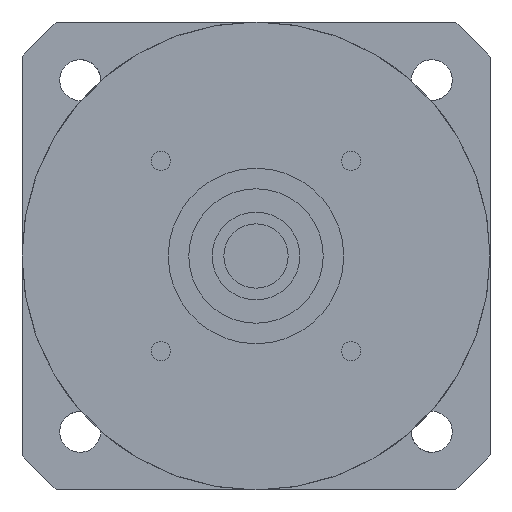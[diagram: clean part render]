
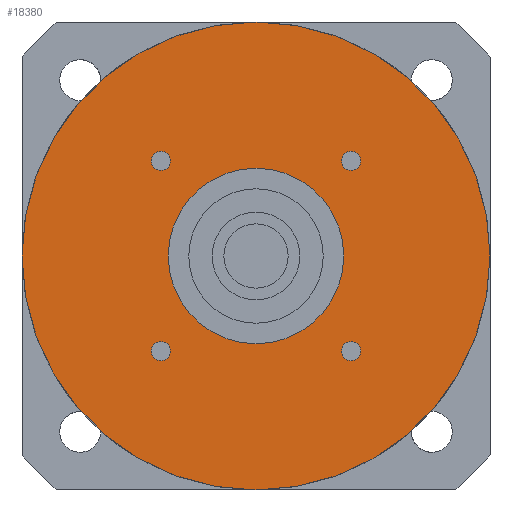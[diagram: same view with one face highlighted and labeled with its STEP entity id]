
A CAD part, left-side view. The second image highlights one B-rep face of the part: STEP entity #18380.
In plain terms, the highlighted planar face has unit normal (-1, 0, 0) as drawn and (0, 0, -1) by its records, which use the part's own axes.
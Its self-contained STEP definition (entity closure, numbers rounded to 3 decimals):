
#13680=CARTESIAN_POINT('',(-17.913,-16.263,-42.));
#13690=VERTEX_POINT('',#13680);
#13740=CARTESIAN_POINT('',(-16.263,-16.263,-42.));
#13750=DIRECTION('',(0.,0.,-1.));
#13760=DIRECTION('',(1.,0.,0.));
#13770=AXIS2_PLACEMENT_3D('',#13740,#13750,#13760);
#13780=CIRCLE('',#13770,1.65);
#13790=CARTESIAN_POINT('',(-14.613,-16.263,-42.));
#13800=VERTEX_POINT('',#13790);
#13810=EDGE_CURVE('',#13800,#13690,#13780,.T.);
#17400=CARTESIAN_POINT('',(-40.,0.,-42.));
#17410=VERTEX_POINT('',#17400);
#17490=CARTESIAN_POINT('',(40.,0.,-42.));
#17500=VERTEX_POINT('',#17490);
#17530=CARTESIAN_POINT('',(0.,0.,
-42.));
#17540=DIRECTION('',(0.,0.,1.));
#17550=DIRECTION('',(1.,0.,0.));
#17560=AXIS2_PLACEMENT_3D('',#17530,#17540,#17550);
#17570=CIRCLE('',#17560,40.);
#17580=EDGE_CURVE('',#17410,#17500,#17570,.T.);
#17630=CARTESIAN_POINT('',(0.,0.,
-42.));
#17640=DIRECTION('',(0.,0.,-1.));
#17650=DIRECTION('',(1.,0.,0.));
#17660=AXIS2_PLACEMENT_3D('',#17630,#17640,#17650);
#17670=PLANE('',#17660);
#17680=CARTESIAN_POINT('',(-16.263,16.263,-42.));
#17690=DIRECTION('',(0.,0.,-1.));
#17700=DIRECTION('',(1.,0.,0.));
#17710=AXIS2_PLACEMENT_3D('',#17680,#17690,#17700);
#17720=CIRCLE('',#17710,1.65);
#17730=CARTESIAN_POINT('',(-14.613,16.263,-42.));
#17740=VERTEX_POINT('',#17730);
#17750=CARTESIAN_POINT('',(-17.913,16.263,-42.));
#17760=VERTEX_POINT('',#17750);
#17770=EDGE_CURVE('',#17740,#17760,#17720,.T.);
#17780=ORIENTED_EDGE('',*,*,#17770,.F.);
#17790=EDGE_CURVE('',#17760,#17740,#17720,.T.);
#17800=ORIENTED_EDGE('',*,*,#17790,.F.);
#17810=EDGE_LOOP('',(#17800,#17780));
#17820=FACE_BOUND('',#17810,.T.);
#17830=CARTESIAN_POINT('',(0.,0.,
-42.));
#17840=DIRECTION('',(0.,0.,1.));
#17850=DIRECTION('',(1.,0.,0.));
#17860=AXIS2_PLACEMENT_3D('',#17830,#17840,#17850);
#17870=CIRCLE('',#17860,15.);
#17880=CARTESIAN_POINT('',(15.,0.,-42.));
#17890=VERTEX_POINT('',#17880);
#17900=CARTESIAN_POINT('',(-15.,0.,-42.));
#17910=VERTEX_POINT('',#17900);
#17920=EDGE_CURVE('',#17890,#17910,#17870,.T.);
#17930=ORIENTED_EDGE('',*,*,#17920,.T.);
#17940=EDGE_CURVE('',#17910,#17890,#17870,.T.);
#17950=ORIENTED_EDGE('',*,*,#17940,.T.);
#17960=EDGE_LOOP('',(#17950,#17930));
#17970=FACE_BOUND('',#17960,.T.);
#17980=CARTESIAN_POINT('',(16.263,16.263,-42.));
#17990=DIRECTION('',(0.,0.,-1.));
#18000=DIRECTION('',(1.,0.,0.));
#18010=AXIS2_PLACEMENT_3D('',#17980,#17990,#18000);
#18020=CIRCLE('',#18010,1.65);
#18030=CARTESIAN_POINT('',(17.913,16.263,-42.));
#18040=VERTEX_POINT('',#18030);
#18050=CARTESIAN_POINT('',(14.613,16.263,-42.));
#18060=VERTEX_POINT('',#18050);
#18070=EDGE_CURVE('',#18040,#18060,#18020,.T.);
#18080=ORIENTED_EDGE('',*,*,#18070,.F.);
#18090=EDGE_CURVE('',#18060,#18040,#18020,.T.);
#18100=ORIENTED_EDGE('',*,*,#18090,.F.);
#18110=EDGE_LOOP('',(#18100,#18080));
#18120=FACE_BOUND('',#18110,.T.);
#18130=CARTESIAN_POINT('',(16.263,-16.263,-42.));
#18140=DIRECTION('',(0.,0.,-1.));
#18150=DIRECTION('',(1.,0.,0.));
#18160=AXIS2_PLACEMENT_3D('',#18130,#18140,#18150);
#18170=CIRCLE('',#18160,1.65);
#18180=CARTESIAN_POINT('',(17.913,-16.263,-42.));
#18190=VERTEX_POINT('',#18180);
#18200=CARTESIAN_POINT('',(14.613,-16.263,-42.));
#18210=VERTEX_POINT('',#18200);
#18220=EDGE_CURVE('',#18190,#18210,#18170,.T.);
#18230=ORIENTED_EDGE('',*,*,#18220,.F.);
#18240=EDGE_CURVE('',#18210,#18190,#18170,.T.);
#18250=ORIENTED_EDGE('',*,*,#18240,.F.);
#18260=EDGE_LOOP('',(#18250,#18230));
#18270=FACE_BOUND('',#18260,.T.);
#18280=ORIENTED_EDGE('',*,*,#13810,.F.);
#18290=EDGE_CURVE('',#13690,#13800,#13780,.T.);
#18300=ORIENTED_EDGE('',*,*,#18290,.F.);
#18310=EDGE_LOOP('',(#18300,#18280));
#18320=FACE_BOUND('',#18310,.T.);
#18330=EDGE_CURVE('',#17500,#17410,#17570,.T.);
#18340=ORIENTED_EDGE('',*,*,#18330,.F.);
#18350=ORIENTED_EDGE('',*,*,#17580,.F.);
#18360=EDGE_LOOP('',(#18350,#18340));
#18370=FACE_OUTER_BOUND('',#18360,.T.);
#18380=ADVANCED_FACE('',(#17820,#17970,#18120,#18270,#18320,#18370),
#17670,.T.);
